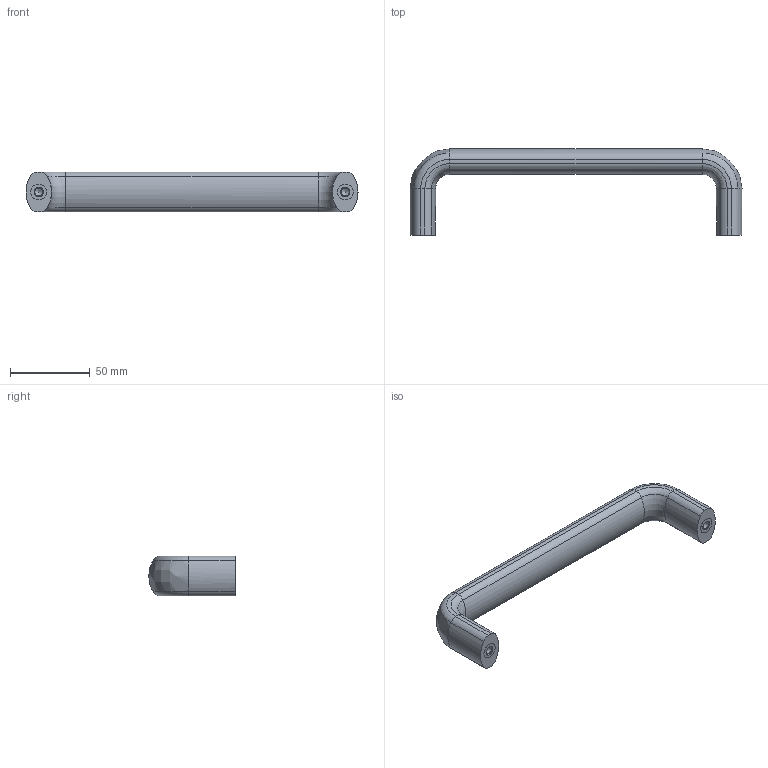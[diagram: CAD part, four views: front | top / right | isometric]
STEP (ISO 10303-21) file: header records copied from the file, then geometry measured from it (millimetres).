
FILE_DESCRIPTION( ( 'STEP AP203' ), '1' );
FILE_NAME( 'C:/Temp/Ganter_Step_05_03_2020/data/1_2/gn_564/Cabinet U-handle GN 564-25-192.stp', '2020-03-05T10:08:38', ( 'License CC BY-ND 4.0' ), ( 'CADENAS' ), ' ', 'PARTsolutions', ' ' );
FILE_SCHEMA( ( 'CONFIG_CONTROL_DESIGN' ) );
Length unit declared in the file: millimetre
Products named in the file (1): _Cabinet U-handle GN 564-25-192
Bounding box: 208 x 54 x 24.99 mm (x, y, z)
Volume: 86527.2 mm3; surface area: 18882 mm2
Topology: 1 solids, 1 shells, 58 faces, 140 edges, 86 vertices
Faces by surface type: cylinder 28, torus 14, plane 10, cone 4, bspline 2
Full cylindrical faces by diameter (mm): 4.917 x2, 10 x2
Entity records: 1768 total; most frequent: CARTESIAN_POINT 359, DIRECTION 326, ORIENTED_EDGE 260, AXIS2_PLACEMENT_3D 151, EDGE_CURVE 130, CIRCLE 94, VERTEX_POINT 86, EDGE_LOOP 68
